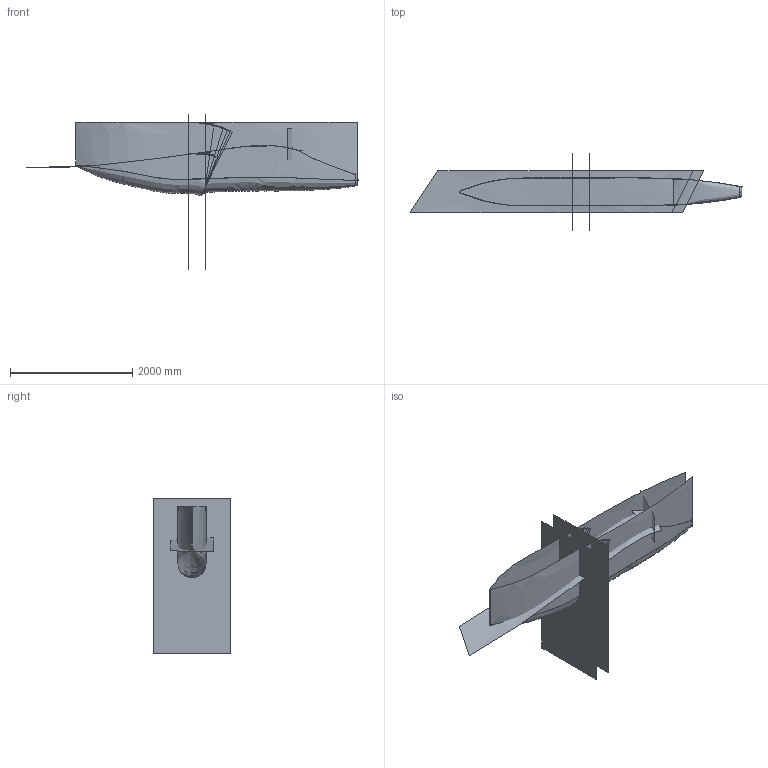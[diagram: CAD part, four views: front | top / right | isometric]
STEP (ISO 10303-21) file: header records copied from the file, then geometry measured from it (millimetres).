
FILE_DESCRIPTION((''),'2;1');
FILE_NAME('','2022-11-28T00:58:39',(''),(''),'','CADfix','');
FILE_SCHEMA(('AUTOMOTIVE_DESIGN { 1 0 10303 214 1 1 1 1 }'));
Bounding box: 5433.53 x 1270 x 2540 mm (x, y, z)
Surface area: 31818441.7 mm2 (no closed solid volume)
Topology: 0 solids, 0 shells, 21 faces, 85 edges, 86 vertices
Faces by surface type: bspline 21
Entity records: 89145 total; most frequent: CARTESIAN_POINT 89101, B_SPLINE_SURFACE_WITH_KNOTS 21, DIMENSIONAL_EXPONENTS 2, DIRECTION 1, VECTOR 1, LINE 1, TRIMMED_CURVE 1, PLANE_ANGLE_MEASURE_WITH_UNIT 1
